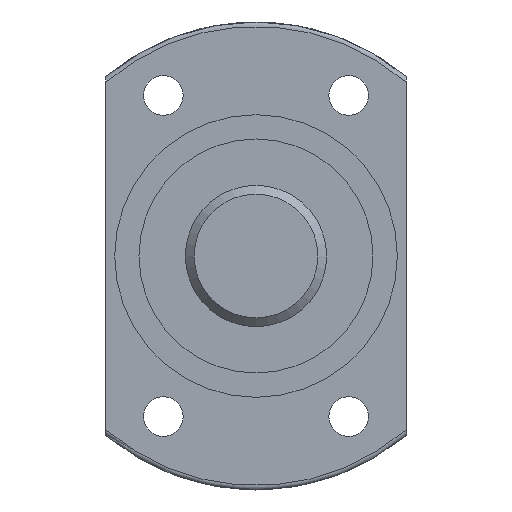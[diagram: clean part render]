
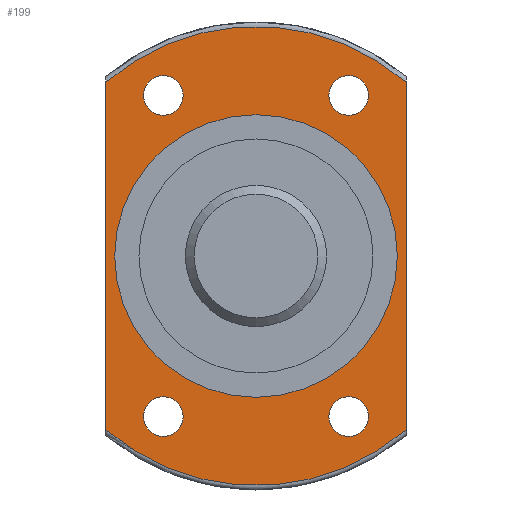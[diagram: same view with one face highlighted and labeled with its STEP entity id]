
A CAD part, left-side view. The second image highlights one B-rep face of the part: STEP entity #199.
In plain terms, the highlighted planar face has unit normal (-1, 0, 0).
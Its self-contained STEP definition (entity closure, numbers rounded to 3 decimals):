
#103=LINE('',#1361,#111);
#104=LINE('',#1362,#112);
#111=VECTOR('',#1024,1.);
#112=VECTOR('',#1025,1.);
#199=ADVANCED_FACE('',(#297,#298,#299,#300,#301,#302),#232,.F.);
#232=PLANE('',#836);
#297=FACE_BOUND('',#395,.T.);
#298=FACE_BOUND('',#396,.T.);
#299=FACE_BOUND('',#397,.T.);
#300=FACE_BOUND('',#398,.T.);
#301=FACE_BOUND('',#399,.T.);
#302=FACE_BOUND('',#400,.T.);
#395=EDGE_LOOP('',(#518));
#396=EDGE_LOOP('',(#519));
#397=EDGE_LOOP('',(#520));
#398=EDGE_LOOP('',(#521));
#399=EDGE_LOOP('',(#522));
#400=EDGE_LOOP('',(#523,#524,#525,#526));
#518=ORIENTED_EDGE('',*,*,#646,.F.);
#519=ORIENTED_EDGE('',*,*,#689,.T.);
#520=ORIENTED_EDGE('',*,*,#690,.T.);
#521=ORIENTED_EDGE('',*,*,#691,.T.);
#522=ORIENTED_EDGE('',*,*,#692,.T.);
#523=ORIENTED_EDGE('',*,*,#687,.T.);
#524=ORIENTED_EDGE('',*,*,#693,.T.);
#525=ORIENTED_EDGE('',*,*,#671,.T.);
#526=ORIENTED_EDGE('',*,*,#694,.F.);
#584=VERTEX_POINT('',#1118);
#609=VERTEX_POINT('',#1223);
#610=VERTEX_POINT('',#1224);
#619=VERTEX_POINT('',#1330);
#620=VERTEX_POINT('',#1332);
#621=VERTEX_POINT('',#1354);
#622=VERTEX_POINT('',#1356);
#623=VERTEX_POINT('',#1358);
#624=VERTEX_POINT('',#1360);
#646=EDGE_CURVE('',#584,#584,#716,.T.);
#671=EDGE_CURVE('',#609,#610,#737,.T.);
#687=EDGE_CURVE('',#620,#619,#744,.T.);
#689=EDGE_CURVE('',#621,#621,#745,.T.);
#690=EDGE_CURVE('',#622,#622,#746,.T.);
#691=EDGE_CURVE('',#623,#623,#747,.T.);
#692=EDGE_CURVE('',#624,#624,#748,.T.);
#693=EDGE_CURVE('',#619,#609,#103,.T.);
#694=EDGE_CURVE('',#620,#610,#104,.T.);
#716=CIRCLE('',#779,16.);
#737=CIRCLE('',#819,26.);
#744=CIRCLE('',#830,26.);
#745=CIRCLE('',#832,2.25);
#746=CIRCLE('',#833,2.25);
#747=CIRCLE('',#834,2.25);
#748=CIRCLE('',#835,2.25);
#779=AXIS2_PLACEMENT_3D('',#1117,#904,#905);
#819=AXIS2_PLACEMENT_3D('',#1222,#986,#987);
#830=AXIS2_PLACEMENT_3D('',#1331,#1012,#1013);
#832=AXIS2_PLACEMENT_3D('',#1353,#1016,#1017);
#833=AXIS2_PLACEMENT_3D('',#1355,#1018,#1019);
#834=AXIS2_PLACEMENT_3D('',#1357,#1020,#1021);
#835=AXIS2_PLACEMENT_3D('',#1359,#1022,#1023);
#836=AXIS2_PLACEMENT_3D('',#1363,#1026,#1027);
#904=DIRECTION('',(-1.,0.,0.));
#905=DIRECTION('',(0.,0.,-1.));
#986=DIRECTION('',(-1.,0.,0.));
#987=DIRECTION('',(0.,0.,1.));
#1012=DIRECTION('',(-1.,0.,0.));
#1013=DIRECTION('',(0.,0.,1.));
#1016=DIRECTION('',(1.,0.,0.));
#1017=DIRECTION('',(0.,0.,-1.));
#1018=DIRECTION('',(1.,0.,0.));
#1019=DIRECTION('',(0.,0.,-1.));
#1020=DIRECTION('',(1.,0.,0.));
#1021=DIRECTION('',(0.,0.,-1.));
#1022=DIRECTION('',(1.,0.,0.));
#1023=DIRECTION('',(0.,0.,-1.));
#1024=DIRECTION('',(0.,0.,-1.));
#1025=DIRECTION('',(0.,0.,-1.));
#1026=DIRECTION('',(1.,0.,0.));
#1027=DIRECTION('',(0.,0.,-1.));
#1117=CARTESIAN_POINT('',(-34.9,0.,0.));
#1118=CARTESIAN_POINT('',(-34.9,0.,-16.));
#1222=CARTESIAN_POINT('',(-34.9,0.,0.));
#1223=CARTESIAN_POINT('',(-34.9,17.,-19.672));
#1224=CARTESIAN_POINT('',(-34.9,-17.,-19.672));
#1330=CARTESIAN_POINT('',(-34.9,17.,19.672));
#1331=CARTESIAN_POINT('',(-34.9,0.,0.));
#1332=CARTESIAN_POINT('',(-34.9,-17.,19.672));
#1353=CARTESIAN_POINT('',(-34.9,10.5,-18.19));
#1354=CARTESIAN_POINT('',(-34.9,10.5,-20.44));
#1355=CARTESIAN_POINT('',(-34.9,-10.5,-18.19));
#1356=CARTESIAN_POINT('',(-34.9,-10.5,-20.44));
#1357=CARTESIAN_POINT('',(-34.9,-10.5,18.19));
#1358=CARTESIAN_POINT('',(-34.9,-10.5,15.94));
#1359=CARTESIAN_POINT('',(-34.9,10.5,18.19));
#1360=CARTESIAN_POINT('',(-34.9,10.5,15.94));
#1361=CARTESIAN_POINT('',(-34.9,17.,0.));
#1362=CARTESIAN_POINT('',(-34.9,-17.,0.));
#1363=CARTESIAN_POINT('',(-34.9,26.,0.));
